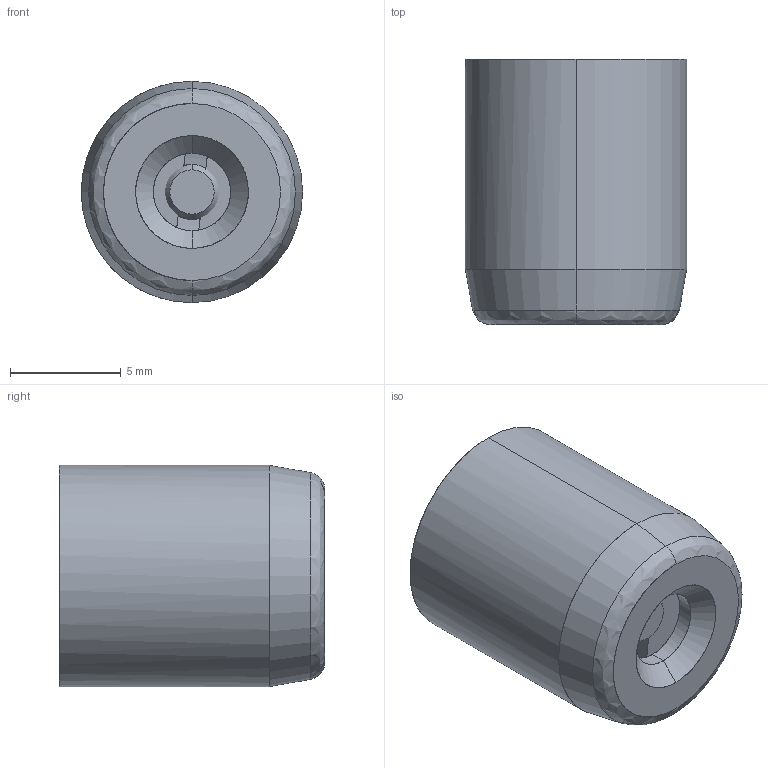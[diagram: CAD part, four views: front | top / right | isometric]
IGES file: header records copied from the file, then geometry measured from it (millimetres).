
Start section: START RECORD GO HERE.
Global section: file name: va100812.igs; native system: DASSAULT SYSTEMES CATIA V5 R20 - www.3ds.com; preprocessor: CATIA Version 5 Release 20 ; author: Utente; organization: NB04-ASUS; date: 20201107.140715; units: millimetre
Bounding box: 10 x 12 x 10 mm (x, y, z)
Surface area: 1403.3 mm2 (no closed solid volume)
Topology: 0 solids, 0 shells, 163 faces, 732 edges, 731 vertices
Faces by surface type: bspline 80, revolution 56, plane 27
